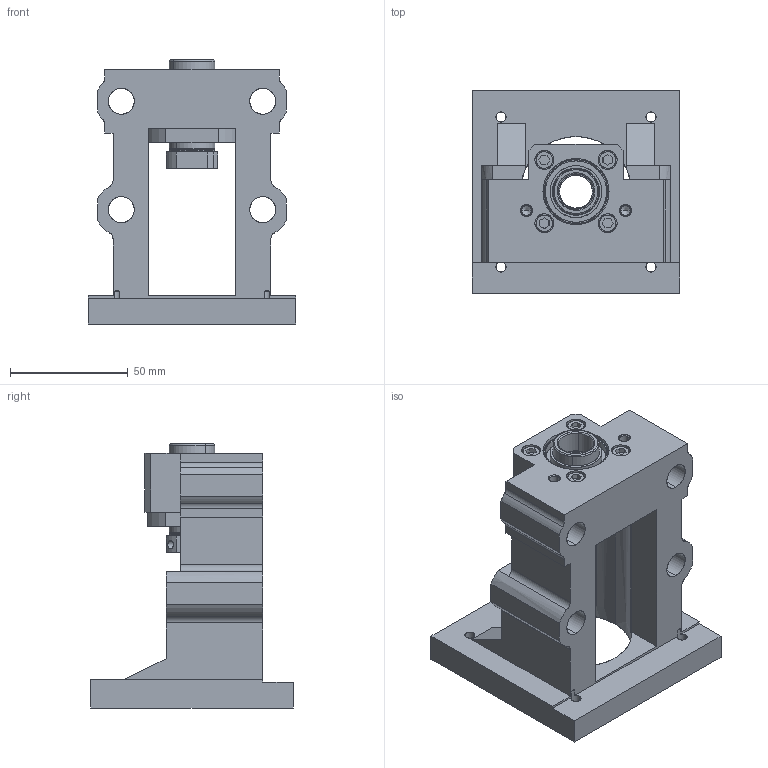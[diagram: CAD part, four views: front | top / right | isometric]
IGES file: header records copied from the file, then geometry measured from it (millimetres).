
Start section: SolidWorks IGES file using analytic representation for surfaces
Global section: file name: C:\Users\117\Desktop\MBCE15-EP.IGS; native system: SolidWorks 2018; preprocessor: SolidWorks 2018; author: 117; date: 230112.130818; units: millimetre
Bounding box: 88 x 86 x 112 mm (x, y, z)
Surface area: 78271.2 mm2 (no closed solid volume)
Topology: 0 solids, 0 shells, 562 faces, 10298 edges, 10222 vertices
Faces by surface type: revolution 323, bspline 239
